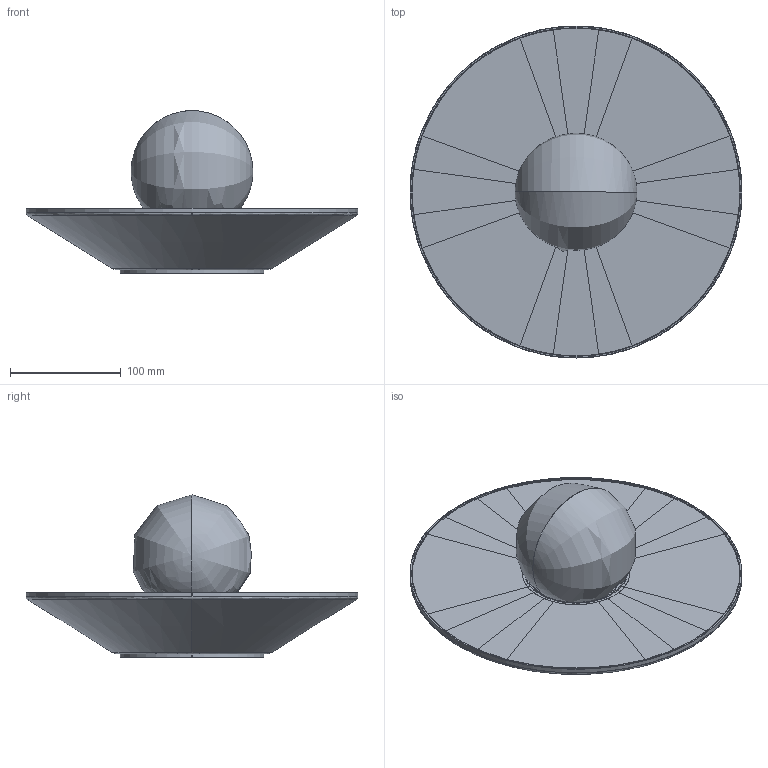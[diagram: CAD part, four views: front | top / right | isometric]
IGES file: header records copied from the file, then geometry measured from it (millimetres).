
Start section: SolidWorks IGES file using analytic representation for surfaces
Global section: file name: \\192.168.0.53\Reserch Development\SITO WEB\2024\File 2D 3D\Prodotti\Caricamenti\Cartelle non compresse\Caleide Eto\De Castelli-3D-Caleide Eto 30.IGS; native system: SolidWorks 2025; preprocessor: SolidWorks 2025; author: lauraa; date: 260514.101605; units: millimetre
Bounding box: 300 x 300 x 146.82 mm (x, y, z)
Surface area: 221494 mm2 (no closed solid volume)
Topology: 0 solids, 0 shells, 180 faces, 3451 edges, 3450 vertices
Faces by surface type: bspline 108, revolution 72
